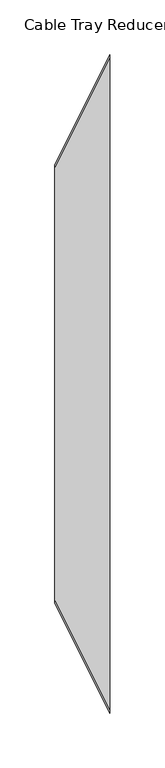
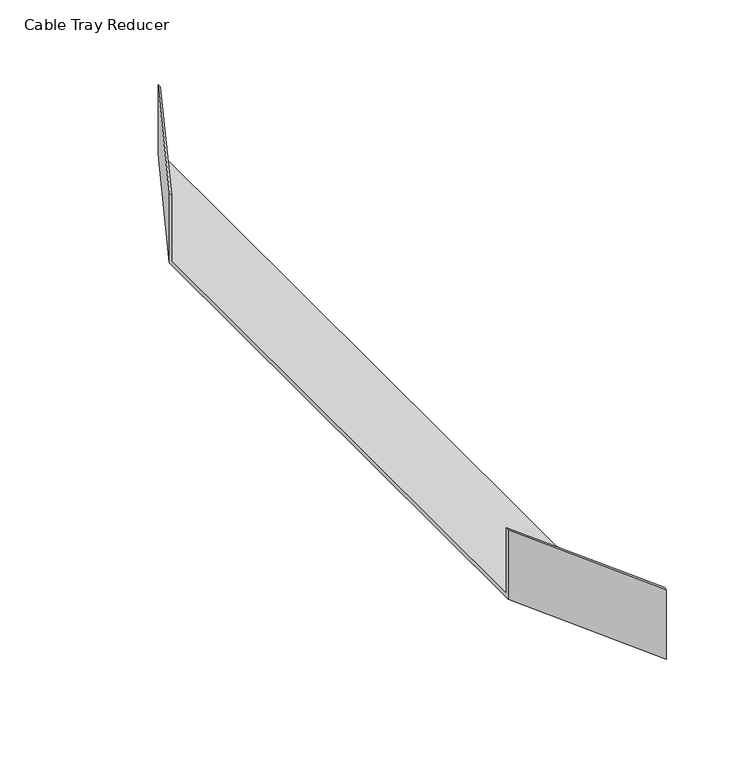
"""IFC4 building model written with IfcOpenShell, lengths in millimetres: cable carrier fitting geometry, Cable Tray Reducer : ELEC_SUB_CT_N2402."""

from ifc_helpers import new_model, si_unit, origin, place, context, project, spatial, faceted_brep, source, transform, mapped, element, save


def cable_tray_reducer_028fe2a6(model_context):
    return source(origin(), model_context, "Body", "Brep", [
        faceted_brep([(50.0, -300.0, -25.0), (50.0, 300.0, -25.0), (50.0, 300.0, 25.0), (50.0, 297.46, 25.0), (50.0, 297.46, -22.46), (50.0, -297.46, -22.46), (50.0, -297.46, 25.0), (50.0, -300.0, 25.0), (0.0, -200.0, -25.0), (0.0, -200.0, 25.0), (0.0, -197.46, 25.0), (0.0, -197.46, -22.46), (0.0, 197.46, -22.46), (0.0, 197.46, 25.0), (0.0, 200.0, 25.0), (0.0, 200.0, -25.0)], [[[0, 1, 2, 3, 4, 5, 6, 7]], [[8, 9, 10, 11, 12, 13, 14, 15]], [[8, 15, 1, 0]], [[15, 14, 2, 1]], [[14, 13, 3, 2]], [[13, 12, 4, 3]], [[12, 11, 5, 4]], [[11, 10, 6, 5]], [[10, 9, 7, 6]], [[9, 8, 0, 7]]]),
    ])


if __name__ == "__main__":
    model = new_model("IFC4")
    model_context = context("Model", 3, world=origin())
    ifc_project = project(units=[si_unit("LENGTHUNIT", "METRE", prefix="MILLI")], contexts=[model_context])
    site = spatial("IfcSite", under=ifc_project)
    building = spatial("IfcBuilding", under=site)
    placement = place(None, origin())
    cable_tray_reducer_shape = cable_tray_reducer_028fe2a6(model_context)
    element("IfcCableCarrierFitting", 1, ObjectType="Cable Tray Reducer : ELEC_SUB_CT_N2402", at=placement, inside=building, context=model_context, shape_type="MappedRepresentation", body=[
        mapped(cable_tray_reducer_shape, transform((0.0, 0.0, 0.0), x_axis=(1.0, 0.0, 0.0), y_axis=(0.0, 1.0, 0.0), z_axis=(0.0, 0.0, 1.0))),
    ])
    save(model, "model.ifc")
